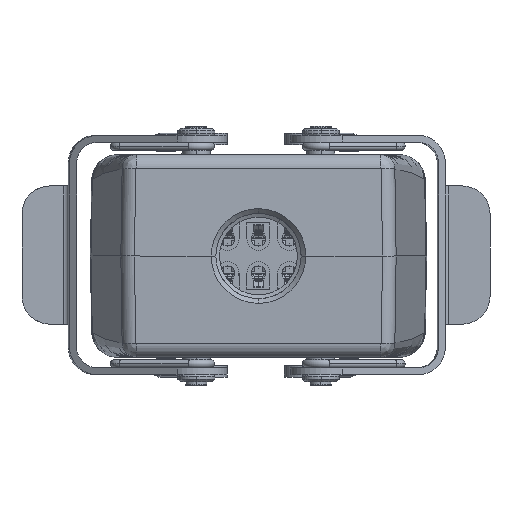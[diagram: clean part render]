
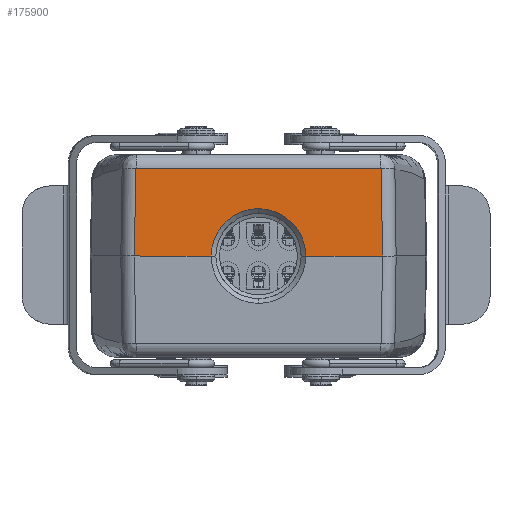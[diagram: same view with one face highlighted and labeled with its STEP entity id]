
A CAD part, front view. The second image highlights one B-rep face of the part: STEP entity #175900.
In plain terms, the highlighted planar face has unit normal (0, -1, 0.018) as drawn and (-0.009, 1, 0.017) by its records, which use the part's own axes.
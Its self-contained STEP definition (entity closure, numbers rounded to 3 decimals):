
#1003 = B_SPLINE_CURVE_WITH_KNOTS ( 'NONE', 3,
 ( #13790, #193298, #29120, #44430, #94688, #145058, #129707, #43370, #130762, #31236, #128645, #159347, #197558, #160421, #196505, #10600, #177943, #77249 ),
 .UNSPECIFIED., .F., .F.,
 ( 4, 2, 2, 2, 2, 2, 2, 2, 4 ),
 ( 0., 0.125, 0.25, 0.375, 0.5, 0.625, 0.75, 0.875, 1. ),
 .UNSPECIFIED. ) ;
#4264 = EDGE_LOOP ( 'NONE', ( #179382, #212119, #169774, #185434, #72777, #83014, #158447, #206786, #210128 ) ) ;
#10315 = CARTESIAN_POINT ( 'NONE',  ( 26.021, 59.885, 18.852 ) ) ;
#10382 = VECTOR ( 'NONE', #190026, 1000. ) ;
#10600 = CARTESIAN_POINT ( 'NONE',  ( -10.681, 59.856, 1.142 ) ) ;
#11381 = CARTESIAN_POINT ( 'NONE',  ( 26.091, 59.886, 18.839 ) ) ;
#13790 = CARTESIAN_POINT ( 'NONE',  ( -0.492, 59.794, 10.067 ) ) ;
#15635 = B_SPLINE_CURVE_WITH_KNOTS ( 'NONE', 3,
 ( #195557, #29231, #53198, #117691, #201968, #203078 ),
 .UNSPECIFIED., .F., .F.,
 ( 4, 2, 4 ),
 ( 0., 0.5, 1. ),
 .UNSPECIFIED. ) ;
#16379 = CARTESIAN_POINT ( 'NONE',  ( -76.939, 59.268, -0.2 ) ) ;
#22306 = VERTEX_POINT ( 'NONE', #127949 ) ;
#25573 = EDGE_CURVE ( 'NONE', #22306, #108817, #36178, .T. ) ;
#28018 = CARTESIAN_POINT ( 'NONE',  ( -0.492, 59.794, 10.067 ) ) ;
#29120 = CARTESIAN_POINT ( 'NONE',  ( -1.834, 59.783, 10.002 ) ) ;
#29231 = CARTESIAN_POINT ( 'NONE',  ( -27.144, 59.396, 18.759 ) ) ;
#29847 = VERTEX_POINT ( 'NONE', #100056 ) ;
#31103 = EDGE_CURVE ( 'NONE', #59235, #200721, #86726, .T. ) ;
#31236 = CARTESIAN_POINT ( 'NONE',  ( -8.223, 59.784, 6.584 ) ) ;
#32071 = VERTEX_POINT ( 'NONE', #101096 ) ;
#35644 = CARTESIAN_POINT ( 'NONE',  ( -27.331, 59.616, 6.108 ) ) ;
#36178 = B_SPLINE_CURVE_WITH_KNOTS ( 'NONE', 3,
 ( #10315, #143724, #11381, #78030, #162283, #61650 ),
 .UNSPECIFIED., .F., .F.,
 ( 4, 2, 4 ),
 ( 0., 0.5, 1. ),
 .UNSPECIFIED. ) ;
#38016 = CARTESIAN_POINT ( 'NONE',  ( -27.013, 59.396, 18.852 ) ) ;
#41762 = VECTOR ( 'NONE', #203842, 1000. ) ;
#43370 = CARTESIAN_POINT ( 'NONE',  ( -6.752, 59.773, 7.963 ) ) ;
#44430 = CARTESIAN_POINT ( 'NONE',  ( -3.154, 59.775, 9.739 ) ) ;
#45326 = DIRECTION ( 'NONE',  ( -1., -0.009, 0. ) ) ;
#49188 = DIRECTION ( 'NONE',  ( -0.009, 1., 0.017 ) ) ;
#53198 = CARTESIAN_POINT ( 'NONE',  ( -27.13, 59.396, 18.79 ) ) ;
#57057 = EDGE_CURVE ( 'NONE', #122282, #29847, #1003, .T. ) ;
#59235 = VERTEX_POINT ( 'NONE', #157249 ) ;
#59771 = CARTESIAN_POINT ( 'NONE',  ( 0.848, 59.808, 10.001 ) ) ;
#61650 = CARTESIAN_POINT ( 'NONE',  ( 26.159, 59.889, 18.717 ) ) ;
#62124 = EDGE_CURVE ( 'NONE', #205394, #22306, #155150, .T. ) ;
#62981 = CARTESIAN_POINT ( 'NONE',  ( 5.766, 59.888, 7.961 ) ) ;
#64039 = CARTESIAN_POINT ( 'NONE',  ( 2.811, 59.834, 9.543 ) ) ;
#72777 = ORIENTED_EDGE ( 'NONE', *, *, #57057, .T. ) ;
#77249 = CARTESIAN_POINT ( 'NONE',  ( -10.745, 59.879, -0.2 ) ) ;
#78030 = CARTESIAN_POINT ( 'NONE',  ( 26.145, 59.887, 18.787 ) ) ;
#78275 = CARTESIAN_POINT ( 'NONE',  ( 8.407, 59.966, 4.942 ) ) ;
#80386 = CARTESIAN_POINT ( 'NONE',  ( 0.181, 59.8, 10.067 ) ) ;
#83014 = ORIENTED_EDGE ( 'NONE', *, *, #194410, .T. ) ;
#86726 = LINE ( 'NONE', #87795, #41762 ) ;
#87795 = CARTESIAN_POINT ( 'NONE',  ( -76.939, 59.268, -0.2 ) ) ;
#94688 = CARTESIAN_POINT ( 'NONE',  ( -3.797, 59.773, 9.544 ) ) ;
#97221 = FACE_OUTER_BOUND ( 'NONE', #4264, .T. ) ;
#100056 = CARTESIAN_POINT ( 'NONE',  ( -10.745, 59.879, -0.2 ) ) ;
#101096 = CARTESIAN_POINT ( 'NONE',  ( -27.144, 59.397, 18.723 ) ) ;
#103763 = AXIS2_PLACEMENT_3D ( 'NONE', #16379, #49188, #104598 ) ;
#104598 = DIRECTION ( 'NONE',  ( 0.884, 0., 0.467 ) ) ;
#108817 = VERTEX_POINT ( 'NONE', #146842 ) ;
#110023 = CARTESIAN_POINT ( 'NONE',  ( 9.69, 60.044, 1.142 ) ) ;
#117691 = CARTESIAN_POINT ( 'NONE',  ( -27.08, 59.396, 18.84 ) ) ;
#118736 = CARTESIAN_POINT ( 'NONE',  ( -27.144, 59.397, 18.723 ) ) ;
#122282 = VERTEX_POINT ( 'NONE', #210284 ) ;
#122998 = B_SPLINE_CURVE_WITH_KNOTS ( 'NONE', 3,
 ( #118736, #201911, #35644, #184421 ),
 .UNSPECIFIED., .F., .F.,
 ( 4, 4 ),
 ( 0., 1. ),
 .UNSPECIFIED. ) ;
#125421 = LINE ( 'NONE', #174655, #10382 ) ;
#127546 = CARTESIAN_POINT ( 'NONE',  ( 6.284, 59.901, 7.535 ) ) ;
#127949 = CARTESIAN_POINT ( 'NONE',  ( 26.021, 59.885, 18.852 ) ) ;
#128610 = CARTESIAN_POINT ( 'NONE',  ( 7.235, 59.926, 6.582 ) ) ;
#128645 = CARTESIAN_POINT ( 'NONE',  ( -8.648, 59.789, 6.064 ) ) ;
#129707 = CARTESIAN_POINT ( 'NONE',  ( -5.633, 59.77, 8.712 ) ) ;
#130562 = EDGE_CURVE ( 'NONE', #59235, #108817, #125421, .T. ) ;
#130584 = LINE ( 'NONE', #177761, #163238 ) ;
#130762 = CARTESIAN_POINT ( 'NONE',  ( -7.271, 59.776, 7.537 ) ) ;
#136546 = CARTESIAN_POINT ( 'NONE',  ( -27.425, 59.725, -0.2 ) ) ;
#138685 = CARTESIAN_POINT ( 'NONE',  ( -76.936, 58.936, 18.852 ) ) ;
#140753 = CARTESIAN_POINT ( 'NONE',  ( 9.754, 60.068, -0.2 ) ) ;
#143724 = CARTESIAN_POINT ( 'NONE',  ( 26.058, 59.886, 18.852 ) ) ;
#145058 = CARTESIAN_POINT ( 'NONE',  ( -5.04, 59.77, 9.029 ) ) ;
#146842 = CARTESIAN_POINT ( 'NONE',  ( 26.159, 59.889, 18.717 ) ) ;
#147160 = CARTESIAN_POINT ( 'NONE',  ( 8.723, 59.979, 4.35 ) ) ;
#149777 = PLANE ( 'NONE',  #103763 ) ;
#155150 = LINE ( 'NONE', #138685, #178250 ) ;
#157249 = CARTESIAN_POINT ( 'NONE',  ( 26.433, 60.222, -0.2 ) ) ;
#158447 = ORIENTED_EDGE ( 'NONE', *, *, #216174, .F. ) ;
#159319 = CARTESIAN_POINT ( 'NONE',  ( 9.43, 60.018, 2.463 ) ) ;
#159347 = CARTESIAN_POINT ( 'NONE',  ( -9.396, 59.801, 4.944 ) ) ;
#160421 = CARTESIAN_POINT ( 'NONE',  ( -10.226, 59.826, 3.106 ) ) ;
#162283 = CARTESIAN_POINT ( 'NONE',  ( 26.159, 59.888, 18.755 ) ) ;
#163238 = VECTOR ( 'NONE', #45326, 1000. ) ;
#163573 = CARTESIAN_POINT ( 'NONE',  ( 9.236, 60.005, 3.106 ) ) ;
#165253 = CARTESIAN_POINT ( 'NONE',  ( 9.754, 60.068, -0.2 ) ) ;
#168829 = B_SPLINE_CURVE_WITH_KNOTS ( 'NONE', 3,
 ( #140753, #181074, #110023, #159319, #163573, #147160, #78275, #209691, #128610, #127546, #62981, #213958, #177918, #64039, #197522, #59771, #80386, #28018 ),
 .UNSPECIFIED., .F., .F.,
 ( 4, 2, 2, 2, 2, 2, 2, 2, 4 ),
 ( 0., 0.125, 0.25, 0.375, 0.5, 0.625, 0.75, 0.875, 1. ),
 .UNSPECIFIED. ) ;
#169774 = ORIENTED_EDGE ( 'NONE', *, *, #31103, .T. ) ;
#170485 = DIRECTION ( 'NONE',  ( 1., 0.009, 0. ) ) ;
#171216 = EDGE_CURVE ( 'NONE', #32071, #205394, #15635, .T. ) ;
#174655 = CARTESIAN_POINT ( 'NONE',  ( 26.433, 60.222, -0.2 ) ) ;
#175900 = ADVANCED_FACE ( 'NONE', ( #97221 ), #149777, .T. ) ;
#177761 = CARTESIAN_POINT ( 'NONE',  ( -76.939, 59.268, -0.2 ) ) ;
#177918 = CARTESIAN_POINT ( 'NONE',  ( 4.056, 59.854, 9.027 ) ) ;
#177943 = CARTESIAN_POINT ( 'NONE',  ( -10.746, 59.867, 0.474 ) ) ;
#178250 = VECTOR ( 'NONE', #170485, 1000. ) ;
#178842 = VERTEX_POINT ( 'NONE', #136546 ) ;
#179382 = ORIENTED_EDGE ( 'NONE', *, *, #25573, .T. ) ;
#180822 = EDGE_CURVE ( 'NONE', #200721, #122282, #168829, .T. ) ;
#181074 = CARTESIAN_POINT ( 'NONE',  ( 9.755, 60.056, 0.474 ) ) ;
#184421 = CARTESIAN_POINT ( 'NONE',  ( -27.425, 59.725, -0.2 ) ) ;
#185434 = ORIENTED_EDGE ( 'NONE', *, *, #180822, .T. ) ;
#190026 = DIRECTION ( 'NONE',  ( -0.014, -0.018, 1. ) ) ;
#193298 = CARTESIAN_POINT ( 'NONE',  ( -1.165, 59.788, 10.068 ) ) ;
#194410 = EDGE_CURVE ( 'NONE', #29847, #178842, #130584, .T. ) ;
#195557 = CARTESIAN_POINT ( 'NONE',  ( -27.144, 59.397, 18.723 ) ) ;
#196505 = CARTESIAN_POINT ( 'NONE',  ( -10.42, 59.835, 2.464 ) ) ;
#197522 = CARTESIAN_POINT ( 'NONE',  ( 2.17, 59.824, 9.738 ) ) ;
#197558 = CARTESIAN_POINT ( 'NONE',  ( -9.712, 59.809, 4.352 ) ) ;
#200721 = VERTEX_POINT ( 'NONE', #165253 ) ;
#201911 = CARTESIAN_POINT ( 'NONE',  ( -27.238, 59.506, 12.416 ) ) ;
#201968 = CARTESIAN_POINT ( 'NONE',  ( -27.049, 59.396, 18.852 ) ) ;
#203078 = CARTESIAN_POINT ( 'NONE',  ( -27.013, 59.396, 18.852 ) ) ;
#203842 = DIRECTION ( 'NONE',  ( -1., -0.009, 0. ) ) ;
#205394 = VERTEX_POINT ( 'NONE', #38016 ) ;
#206786 = ORIENTED_EDGE ( 'NONE', *, *, #171216, .T. ) ;
#209691 = CARTESIAN_POINT ( 'NONE',  ( 7.66, 59.939, 6.063 ) ) ;
#210128 = ORIENTED_EDGE ( 'NONE', *, *, #62124, .T. ) ;
#210284 = CARTESIAN_POINT ( 'NONE',  ( -0.492, 59.794, 10.067 ) ) ;
#212119 = ORIENTED_EDGE ( 'NONE', *, *, #130562, .F. ) ;
#213958 = CARTESIAN_POINT ( 'NONE',  ( 4.646, 59.865, 8.711 ) ) ;
#216174 = EDGE_CURVE ( 'NONE', #32071, #178842, #122998, .T. ) ;
